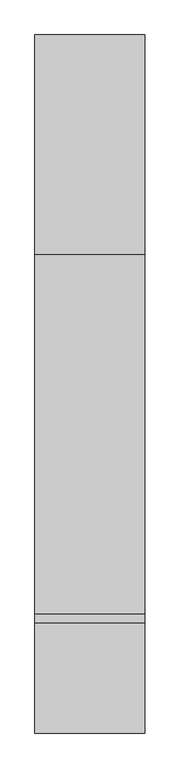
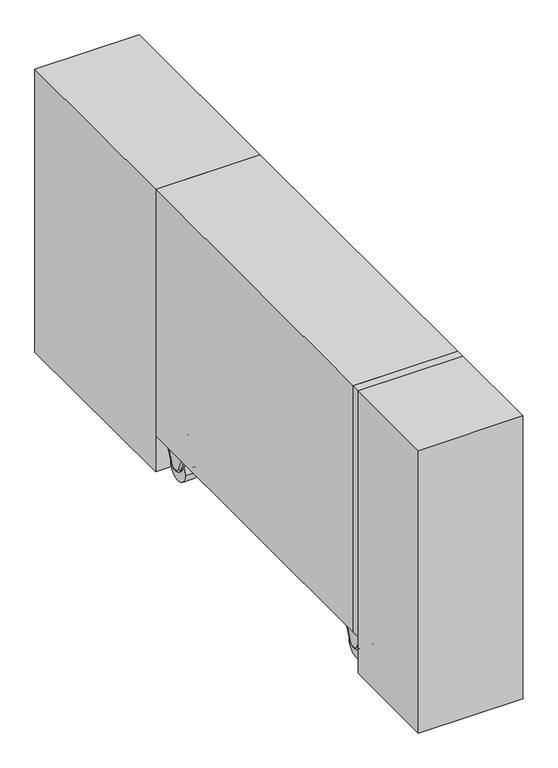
"""IFC4 building model written with IfcOpenShell, lengths in millimetres: proxy geometry, Трехфазный ИБП_ЛЕГИОН_СайберЭлектро : ЛЕГИОН-3Ф-10К-Ш."""

from ifc_helpers import new_model, si_unit, point, frame, origin, origin_with_axes, place, context, project, spatial, polyline, circle_curve, ellipse_curve, trimmed, outline, extrude, source, transform, mapped, element, save
from ifc_brep_helpers import plane_surface, cylinder_surface, revolved_surface, advanced_brep


def electrical_equipment_3741b5e4(model_context):
    return source(origin(), model_context, "Body", "SolidModel", [
        advanced_brep(
        [(107.5584286, -22.026834, 73.0926887), (107.5584286, -31.2318826, 87.0), (107.5584286, -68.7681174, 87.0), (107.5584286, -77.973166, 73.0926887), (107.5584286, -63.8075728, 39.7206426), (107.5584286, -36.1924272, 39.7206426), (62.4415714, -31.2318826, 87.0), (62.4415714, -22.026834, 73.0926887), (62.4415714, -36.1924272, 39.7206426), (62.4415714, -63.8075728, 39.7206426), (62.4415714, -77.973166, 73.0926887), (62.4415714, -68.7681174, 87.0), (102.5584286, -31.2318826, 92.0), (67.4415641, -31.2318826, 92.0), (67.4415714, -68.7681174, 92.0), (102.5584286, -68.7681174, 92.0), (67.4415714, -82.5756902, 71.1390331), (102.5584286, -82.5756902, 71.1390331), (100.0, -73.1912444, 49.0306642), (100.0, -68.4100971, 37.7669869), (102.5584286, -68.4100971, 37.7669869), (67.4415714, -68.4100971, 37.7669869), (70.0, -68.4100971, 37.7669869), (70.0, -73.1912444, 49.0306642), (100.0, -31.5899029, 37.7669869), (102.5584286, -31.5899029, 37.7669869), (70.0, -31.5899029, 37.7669869), (67.4415714, -31.5899029, 37.7669869), (100.0, -26.8087556, 49.0306642), (70.0, -26.8087556, 49.0306642), (67.4415714, -17.4243098, 71.1390331), (102.5584286, -17.4243098, 71.1390331), (100.0, -80.0, 30.0), (100.0, -20.0, 30.0), (70.0, -20.0, 30.0), (70.0, -80.0, 30.0)],
        [
            (0, 1, circle_curve(frame((107.5584286, -31.2318826, 77.0), z_axis=(1.0, 0.0, 0.0), x_axis=(0.0, 0.0, 1.0)), 10.0)),
            (1, 2),
            (2, 3, circle_curve(frame((107.5584286, -68.7681174, 77.0), z_axis=(1.0, 0.0, 0.0), x_axis=(0.0, -0.9205048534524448, -0.3907311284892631)), 10.0)),
            (3, 4),
            (4, 5, circle_curve(frame((107.5584286, -50.0, 45.5816095), z_axis=(1.0, 0.0, 0.0), x_axis=(0.0, 0.9205048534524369, -0.3907311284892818)), 15.0)),
            (5, 0),
            (6, 7, circle_curve(frame((62.4415714, -31.2318826, 77.0), z_axis=(-1.0, 0.0, 0.0), x_axis=(0.0, 0.0, 1.0)), 10.0)),
            (7, 8),
            (8, 9, circle_curve(frame((62.4415714, -50.0, 45.5816095), z_axis=(-1.0, 0.0, 0.0), x_axis=(0.0, 0.9205048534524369, -0.3907311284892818)), 15.0)),
            (9, 10),
            (10, 11, circle_curve(frame((62.4415714, -68.7681174, 77.0), z_axis=(-1.0, 0.0, 0.0), x_axis=(0.0, -0.9205048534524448, -0.3907311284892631)), 10.0)),
            (11, 6),
            (12, 13),
            (13, 14),
            (14, 15),
            (15, 12),
            (14, 16, circle_curve(frame((67.4415714, -68.7681174, 77.0), z_axis=(1.0, 0.0, 0.0), x_axis=(0.0, 1.0, 0.0)), 15.0)),
            (16, 17),
            (17, 15, circle_curve(frame((102.5584286, -68.7681174, 77.0), z_axis=(-1.0, 0.0, 0.0), x_axis=(0.0, 1.0, 0.0)), 15.0)),
            (18, 19),
            (19, 20),
            (20, 17),
            (16, 21),
            (21, 22),
            (22, 23),
            (23, 18),
            (19, 24, circle_curve(frame((100.0, -50.0, 45.5816095), z_axis=(1.0, 0.0, 0.0), x_axis=(0.0, 1.0, 0.0)), 20.0)),
            (24, 25),
            (25, 20, circle_curve(frame((102.5584286, -50.0, 45.5816095), z_axis=(-1.0, 0.0, 0.0), x_axis=(0.0, 1.0, 0.0)), 20.0)),
            (26, 22, circle_curve(frame((70.0, -50.0, 45.5816095), z_axis=(-1.0, 0.0, 0.0), x_axis=(0.0, 1.0, 0.0)), 20.0)),
            (21, 27, circle_curve(frame((67.4415714, -50.0, 45.5816095), z_axis=(1.0, 0.0, 0.0), x_axis=(0.0, 1.0, 0.0)), 20.0)),
            (27, 26),
            (24, 28),
            (28, 29),
            (29, 26),
            (27, 30),
            (30, 31),
            (31, 25),
            (12, 31, circle_curve(frame((102.5584286, -31.2318826, 77.0), z_axis=(-1.0, 0.0, 0.0), x_axis=(0.0, 1.0, 0.0)), 15.0)),
            (30, 13, circle_curve(frame((67.4415714, -31.2318826, 77.0), z_axis=(1.0, 0.0, 0.0), x_axis=(0.0, 1.0, 0.0)), 15.0)),
            (32, 33, circle_curve(frame((100.0, -50.0, 30.0), z_axis=(1.0, 0.0, 0.0), x_axis=(0.0, -1.0, 0.0)), 30.0)),
            (33, 28, circle_curve(frame((100.0, -50.0, 30.0), z_axis=(1.0, 0.0, 0.0), x_axis=(0.0, -1.0, 0.0)), 30.0)),
            (18, 32, circle_curve(frame((100.0, -50.0, 30.0), z_axis=(1.0, 0.0, 0.0), x_axis=(0.0, -1.0, 0.0)), 30.0)),
            (34, 35, circle_curve(frame((70.0, -50.0, 30.0), z_axis=(-1.0, 0.0, 0.0), x_axis=(0.0, -1.0, 0.0)), 30.0)),
            (35, 23, circle_curve(frame((70.0, -50.0, 30.0), z_axis=(-1.0, 0.0, 0.0), x_axis=(0.0, -1.0, 0.0)), 30.0)),
            (29, 34, circle_curve(frame((70.0, -50.0, 30.0), z_axis=(-1.0, 0.0, 0.0), x_axis=(0.0, -1.0, 0.0)), 30.0)),
            (33, 34),
            (35, 32),
            (30, 7, circle_curve(frame((67.4415714, -22.026834, 73.0926887), z_axis=(0.0, 0.3907311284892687, 0.9205048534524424), x_axis=(-1.0, 0.0, 0.0)), 5.0)),
            (6, 13, circle_curve(frame((67.4415714, -31.2318826, 87.0), z_axis=(0.0, 1.0, 0.0), x_axis=(-1.0, 0.0, 0.0)), 5.0)),
            (0, 31, circle_curve(frame((102.5584286, -22.026834, 73.0926887), z_axis=(0.0, 0.3907311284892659, 0.9205048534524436), x_axis=(-1.0, 0.0, 0.0)), 5.0)),
            (12, 1, circle_curve(frame((102.5584286, -31.2318826, 87.0), z_axis=(0.0, 1.0, 0.0), x_axis=(-1.0, 0.0, 0.0)), 5.0)),
            (27, 8, circle_curve(frame((67.4415714, -36.1924272, 39.7206426), z_axis=(0.0, 0.3907311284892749, 0.9205048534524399), x_axis=(-1.0, 0.0, 0.0)), 5.0)),
            (5, 25, circle_curve(frame((102.5584286, -36.1924272, 39.7206426), z_axis=(0.0, 0.3907311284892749, 0.9205048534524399), x_axis=(-1.0, 0.0, 0.0)), 5.0)),
            (21, 9, circle_curve(frame((67.4415714, -63.8075728, 39.7206426), z_axis=(0.0, 0.39073112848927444, -0.9205048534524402), x_axis=(-1.0, 0.0, 0.0)), 5.0)),
            (4, 20, circle_curve(frame((102.5584286, -63.8075728, 39.7206426), z_axis=(0.0, 0.39073112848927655, -0.9205048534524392), x_axis=(-1.0, 0.0, 0.0)), 5.0)),
            (16, 10, circle_curve(frame((67.4415714, -77.973166, 73.0926887), z_axis=(0.0, 0.39073112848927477, -0.92050485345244), x_axis=(-1.0, 0.0, 0.0)), 5.0)),
            (3, 17, circle_curve(frame((102.5584286, -77.973166, 73.0926887), z_axis=(0.0, 0.39073112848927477, -0.92050485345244), x_axis=(-1.0, 0.0, 0.0)), 5.0)),
            (14, 11, circle_curve(frame((67.4415714, -68.7681174, 87.0), z_axis=(0.0, -1.0, 0.0), x_axis=(-1.0, 0.0, 0.0)), 5.0)),
            (2, 15, circle_curve(frame((102.5584286, -68.7681174, 87.0), z_axis=(0.0, -1.0, 0.0), x_axis=(-1.0, 0.0, 0.0)), 5.0)),
        ],
        [
            plane_surface(frame((107.5584286, -50.0, 92.0), z_axis=(1.0, 0.0, 0.0), x_axis=(0.0, -1.0, 0.0))),
            plane_surface(frame((62.4415714, -50.0, 92.0), z_axis=(-1.0, 0.0, 0.0), x_axis=(0.0, 1.0, 0.0))),
            plane_surface(frame((107.5584286, -31.2318826, 92.0), z_axis=(0.0, 0.0, 1.0), x_axis=(-1.0, 0.0, 0.0))),
            cylinder_surface(frame((62.4415714, -68.7681174, 77.0), z_axis=(1.0, 0.0, 0.0), x_axis=(0.0, 1.0, 0.0)), 15.0),
            plane_surface(frame((107.5584286, -82.5756902, 71.1390331), z_axis=(0.0, -0.9205048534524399, -0.39073112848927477), x_axis=(-1.0, 0.0, 0.0))),
            cylinder_surface(frame((62.4415714, -50.0, 45.5816095), z_axis=(1.0, 0.0, 0.0), x_axis=(0.0, 1.0, 0.0)), 20.0),
            plane_surface(frame((107.5584286, -31.5899029, 37.7669869), z_axis=(0.0, 0.9205048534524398, -0.3907311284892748), x_axis=(-1.0, 0.0, 0.0))),
            cylinder_surface(frame((62.4415714, -31.2318826, 77.0), z_axis=(1.0, 0.0, 0.0), x_axis=(0.0, 1.0, 0.0)), 15.0),
            plane_surface(frame((100.0, -80.0, 30.0), z_axis=(1.0, 0.0, 0.0), x_axis=(0.0, 0.0, -1.0))),
            plane_surface(frame((70.0, -80.0, 30.0), z_axis=(-1.0, 0.0, 0.0), x_axis=(0.0, 0.0, 1.0))),
            cylinder_surface(frame((70.0, -50.0, 30.0), z_axis=(1.0, 0.0, 0.0), x_axis=(0.0, -1.0, 0.0)), 30.0),
            revolved_surface(trimmed(ellipse_curve(frame((67.4415714, -31.2318826, 87.0), z_axis=(0.0, -1.0, 0.0), x_axis=(-1.0, 0.0, 0.0)), 5.0, 5.0), [point((67.4415714, -31.2318826, 92.0))], [point((62.4415714, -31.2318826, 87.0))], True, "CARTESIAN"), (62.4415714, -31.2318826, 77.0), (-1.0, 0.0, 0.0)),
            revolved_surface(trimmed(ellipse_curve(frame((102.5584286, -31.2318826, 87.0), z_axis=(0.0, -1.0, 0.0), x_axis=(-1.0, 0.0, 0.0)), 5.0, 5.0), [point((107.5584286, -31.2318826, 87.0))], [point((102.5584286, -31.2318826, 92.0))], True, "CARTESIAN"), (62.4415714, -31.2318826, 77.0), (-1.0, 0.0, 0.0)),
            cylinder_surface(frame((67.4415714, -22.026834, 73.0926887), z_axis=(0.0, -0.3907311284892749, -0.9205048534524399), x_axis=(-1.0, 0.0, 0.0)), 5.0),
            cylinder_surface(frame((102.5584286, -22.026834, 73.0926887), z_axis=(0.0, -0.3907311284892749, -0.9205048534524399), x_axis=(-1.0, 0.0, 0.0)), 5.0),
            revolved_surface(trimmed(ellipse_curve(frame((67.4415714, -36.1924272, 39.7206426), z_axis=(0.0, 0.39073112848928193, 0.9205048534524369), x_axis=(-1.0, 0.0, 0.0)), 5.0, 5.0), [point((67.4415714, -31.5899029, 37.7669869))], [point((62.4415714, -36.1924272, 39.7206426))], True, "CARTESIAN"), (62.4415714, -50.0, 45.5816095), (-1.0, 0.0, 0.0)),
            revolved_surface(trimmed(ellipse_curve(frame((102.5584286, -36.1924272, 39.7206426), z_axis=(0.0, 0.39073112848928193, 0.9205048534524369), x_axis=(-1.0, 0.0, 0.0)), 5.0, 5.0), [point((107.5584286, -36.1924272, 39.7206426))], [point((102.5584286, -31.5899029, 37.7669869))], True, "CARTESIAN"), (62.4415714, -50.0, 45.5816095), (-1.0, 0.0, 0.0)),
            cylinder_surface(frame((67.4415714, -63.8075728, 39.7206426), z_axis=(0.0, -0.39073112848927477, 0.92050485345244), x_axis=(-1.0, 0.0, 0.0)), 5.0),
            cylinder_surface(frame((102.5584286, -63.8075728, 39.7206426), z_axis=(0.0, -0.39073112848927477, 0.92050485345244), x_axis=(-1.0, 0.0, 0.0)), 5.0),
            revolved_surface(trimmed(ellipse_curve(frame((67.4415714, -77.973166, 73.0926887), z_axis=(0.0, 0.39073112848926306, -0.9205048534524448), x_axis=(-1.0, 0.0, 0.0)), 5.0, 5.0), [point((67.4415714, -82.5756902, 71.1390331))], [point((62.4415714, -77.973166, 73.0926887))], True, "CARTESIAN"), (62.4415714, -68.7681174, 77.0), (-1.0, 0.0, 0.0)),
            revolved_surface(trimmed(ellipse_curve(frame((102.5584286, -77.973166, 73.0926887), z_axis=(0.0, 0.39073112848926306, -0.9205048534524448), x_axis=(-1.0, 0.0, 0.0)), 5.0, 5.0), [point((107.5584286, -77.973166, 73.0926887))], [point((102.5584286, -82.5756902, 71.1390331))], True, "CARTESIAN"), (62.4415714, -68.7681174, 77.0), (-1.0, 0.0, 0.0)),
            cylinder_surface(frame((67.4415714, -68.7681174, 87.0), z_axis=(0.0, 1.0, 0.0), x_axis=(-1.0, 0.0, 0.0)), 5.0),
            cylinder_surface(frame((102.5584286, -68.7681174, 87.0), z_axis=(0.0, 1.0, 0.0), x_axis=(-1.0, 0.0, 0.0)), 5.0),
        ],
        [
            (0, [[1, 2, 3, 4, 5, 6]]),
            (1, [[7, 8, 9, 10, 11, 12]]),
            (2, [[13, 14, 15, 16]]),
            (3, [[-15, 17, 18, 19]]),
            (4, [[20, 21, 22, -18, 23, 24, 25, 26]]),
            (5, [[27, 28, 29, -21]]),
            (5, [[30, -24, 31, 32]]),
            (6, [[33, 34, 35, -32, 36, 37, 38, -28]]),
            (7, [[-13, 39, -37, 40]]),
            (8, [[41, 42, -33, -27, -20, 43]]),
            (9, [[44, 45, -25, -30, -35, 46]]),
            (10, [[47, -46, -34, -42]]),
            (10, [[48, -43, -26, -45]]),
            (10, [[-41, -48, -44, -47]]),
            (11, [[49, -7, 50, -40]]),
            (12, [[51, -39, 52, -1]]),
            (13, [[-49, -36, 53, -8]]),
            (14, [[-51, -6, 54, -38]]),
            (15, [[-53, -31, 55, -9]]),
            (16, [[-54, -5, 56, -29]]),
            (17, [[-55, -23, 57, -10]]),
            (18, [[-56, -4, 58, -22]]),
            (19, [[-57, -17, 59, -11]]),
            (20, [[-58, -3, 60, -19]]),
            (21, [[-50, -12, -59, -14]]),
            (22, [[-52, -16, -60, -2]]),
        ],
    ),
        advanced_brep(
        [(-62.4415714, -22.026834, 73.0926887), (-62.4415714, -31.2318826, 87.0), (-62.4415714, -68.7681174, 87.0), (-62.4415714, -77.973166, 73.0926887), (-62.4415714, -63.8075728, 39.7206426), (-62.4415714, -36.1924272, 39.7206426), (-107.5584286, -31.2318826, 87.0), (-107.5584286, -22.026834, 73.0926887), (-107.5584286, -36.1924272, 39.7206426), (-107.5584286, -63.8075728, 39.7206426), (-107.5584286, -77.973166, 73.0926887), (-107.5584286, -68.7681174, 87.0), (-67.4415714, -31.2318826, 92.0), (-102.5584359, -31.2318826, 92.0), (-102.5584286, -68.7681174, 92.0), (-67.4415714, -68.7681174, 92.0), (-102.5584286, -82.5756902, 71.1390331), (-67.4415714, -82.5756902, 71.1390331), (-70.0, -73.1912444, 49.0306642), (-70.0, -68.4100971, 37.7669869), (-67.4415714, -68.4100971, 37.7669869), (-102.5584286, -68.4100971, 37.7669869), (-100.0, -68.4100971, 37.7669869), (-100.0, -73.1912444, 49.0306642), (-70.0, -31.5899029, 37.7669869), (-67.4415714, -31.5899029, 37.7669869), (-100.0, -31.5899029, 37.7669869), (-102.5584286, -31.5899029, 37.7669869), (-70.0, -26.8087556, 49.0306642), (-100.0, -26.8087556, 49.0306642), (-102.5584286, -17.4243098, 71.1390331), (-67.4415714, -17.4243098, 71.1390331), (-70.0, -80.0, 30.0), (-70.0, -20.0, 30.0), (-100.0, -20.0, 30.0), (-100.0, -80.0, 30.0)],
        [
            (0, 1, circle_curve(frame((-62.4415714, -31.2318826, 77.0), z_axis=(1.0, 0.0, 0.0), x_axis=(0.0, 0.0, 1.0)), 10.0)),
            (1, 2),
            (2, 3, circle_curve(frame((-62.4415714, -68.7681174, 77.0), z_axis=(1.0, 0.0, 0.0), x_axis=(0.0, -0.9205048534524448, -0.3907311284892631)), 10.0)),
            (3, 4),
            (4, 5, circle_curve(frame((-62.4415714, -50.0, 45.5816095), z_axis=(1.0, 0.0, 0.0), x_axis=(0.0, 0.9205048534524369, -0.3907311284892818)), 15.0)),
            (5, 0),
            (6, 7, circle_curve(frame((-107.5584286, -31.2318826, 77.0), z_axis=(-1.0, 0.0, 0.0), x_axis=(0.0, 0.0, 1.0)), 10.0)),
            (7, 8),
            (8, 9, circle_curve(frame((-107.5584286, -50.0, 45.5816095), z_axis=(-1.0, 0.0, 0.0), x_axis=(0.0, 0.9205048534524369, -0.3907311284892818)), 15.0)),
            (9, 10),
            (10, 11, circle_curve(frame((-107.5584286, -68.7681174, 77.0), z_axis=(-1.0, 0.0, 0.0), x_axis=(0.0, -0.9205048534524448, -0.3907311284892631)), 10.0)),
            (11, 6),
            (12, 13),
            (13, 14),
            (14, 15),
            (15, 12),
            (14, 16, circle_curve(frame((-102.5584286, -68.7681174, 77.0), z_axis=(1.0, 0.0, 0.0), x_axis=(0.0, 1.0, 0.0)), 15.0)),
            (16, 17),
            (17, 15, circle_curve(frame((-67.4415714, -68.7681174, 77.0), z_axis=(-1.0, 0.0, 0.0), x_axis=(0.0, 1.0, 0.0)), 15.0)),
            (18, 19),
            (19, 20),
            (20, 17),
            (16, 21),
            (21, 22),
            (22, 23),
            (23, 18),
            (19, 24, circle_curve(frame((-70.0, -50.0, 45.5816095), z_axis=(1.0, 0.0, 0.0), x_axis=(0.0, 1.0, 0.0)), 20.0)),
            (24, 25),
            (25, 20, circle_curve(frame((-67.4415714, -50.0, 45.5816095), z_axis=(-1.0, 0.0, 0.0), x_axis=(0.0, 1.0, 0.0)), 20.0)),
            (26, 22, circle_curve(frame((-100.0, -50.0, 45.5816095), z_axis=(-1.0, 0.0, 0.0), x_axis=(0.0, 1.0, 0.0)), 20.0)),
            (21, 27, circle_curve(frame((-102.5584286, -50.0, 45.5816095), z_axis=(1.0, 0.0, 0.0), x_axis=(0.0, 1.0, 0.0)), 20.0)),
            (27, 26),
            (24, 28),
            (28, 29),
            (29, 26),
            (27, 30),
            (30, 31),
            (31, 25),
            (12, 31, circle_curve(frame((-67.4415714, -31.2318826, 77.0), z_axis=(-1.0, 0.0, 0.0), x_axis=(0.0, 1.0, 0.0)), 15.0)),
            (30, 13, circle_curve(frame((-102.5584286, -31.2318826, 77.0), z_axis=(1.0, 0.0, 0.0), x_axis=(0.0, 1.0, 0.0)), 15.0)),
            (32, 33, circle_curve(frame((-70.0, -50.0, 30.0), z_axis=(1.0, 0.0, 0.0), x_axis=(0.0, -1.0, 0.0)), 30.0)),
            (33, 28, circle_curve(frame((-70.0, -50.0, 30.0), z_axis=(1.0, 0.0, 0.0), x_axis=(0.0, -1.0, 0.0)), 30.0)),
            (18, 32, circle_curve(frame((-70.0, -50.0, 30.0), z_axis=(1.0, 0.0, 0.0), x_axis=(0.0, -1.0, 0.0)), 30.0)),
            (34, 35, circle_curve(frame((-100.0, -50.0, 30.0), z_axis=(-1.0, 0.0, 0.0), x_axis=(0.0, -1.0, 0.0)), 30.0)),
            (35, 23, circle_curve(frame((-100.0, -50.0, 30.0), z_axis=(-1.0, 0.0, 0.0), x_axis=(0.0, -1.0, 0.0)), 30.0)),
            (29, 34, circle_curve(frame((-100.0, -50.0, 30.0), z_axis=(-1.0, 0.0, 0.0), x_axis=(0.0, -1.0, 0.0)), 30.0)),
            (33, 34),
            (35, 32),
            (30, 7, circle_curve(frame((-102.5584286, -22.026834, 73.0926887), z_axis=(0.0, 0.3907311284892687, 0.9205048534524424), x_axis=(-1.0, 0.0, 0.0)), 5.0)),
            (6, 13, circle_curve(frame((-102.5584286, -31.2318826, 87.0), z_axis=(0.0, 1.0, 0.0), x_axis=(-1.0, 0.0, 0.0)), 5.0)),
            (0, 31, circle_curve(frame((-67.4415714, -22.026834, 73.0926887), z_axis=(0.0, 0.3907311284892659, 0.9205048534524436), x_axis=(-1.0, 0.0, 0.0)), 5.0)),
            (12, 1, circle_curve(frame((-67.4415714, -31.2318826, 87.0), z_axis=(0.0, 1.0, 0.0), x_axis=(-1.0, 0.0, 0.0)), 5.0)),
            (27, 8, circle_curve(frame((-102.5584286, -36.1924272, 39.7206426), z_axis=(0.0, 0.3907311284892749, 0.9205048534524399), x_axis=(-1.0, 0.0, 0.0)), 5.0)),
            (5, 25, circle_curve(frame((-67.4415714, -36.1924272, 39.7206426), z_axis=(0.0, 0.3907311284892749, 0.9205048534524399), x_axis=(-1.0, 0.0, 0.0)), 5.0)),
            (21, 9, circle_curve(frame((-102.5584286, -63.8075728, 39.7206426), z_axis=(0.0, 0.39073112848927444, -0.9205048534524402), x_axis=(-1.0, 0.0, 0.0)), 5.0)),
            (4, 20, circle_curve(frame((-67.4415714, -63.8075728, 39.7206426), z_axis=(0.0, 0.39073112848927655, -0.9205048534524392), x_axis=(-1.0, 0.0, 0.0)), 5.0)),
            (16, 10, circle_curve(frame((-102.5584286, -77.973166, 73.0926887), z_axis=(0.0, 0.39073112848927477, -0.92050485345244), x_axis=(-1.0, 0.0, 0.0)), 5.0)),
            (3, 17, circle_curve(frame((-67.4415714, -77.973166, 73.0926887), z_axis=(0.0, 0.39073112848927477, -0.92050485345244), x_axis=(-1.0, 0.0, 0.0)), 5.0)),
            (14, 11, circle_curve(frame((-102.5584286, -68.7681174, 87.0), z_axis=(0.0, -1.0, 0.0), x_axis=(-1.0, 0.0, 0.0)), 5.0)),
            (2, 15, circle_curve(frame((-67.4415714, -68.7681174, 87.0), z_axis=(0.0, -1.0, 0.0), x_axis=(-1.0, 0.0, 0.0)), 5.0)),
        ],
        [
            plane_surface(frame((-62.4415714, -50.0, 92.0), z_axis=(1.0, 0.0, 0.0), x_axis=(0.0, -1.0, 0.0))),
            plane_surface(frame((-107.5584286, -50.0, 92.0), z_axis=(-1.0, 0.0, 0.0), x_axis=(0.0, 1.0, 0.0))),
            plane_surface(frame((-62.4415714, -31.2318826, 92.0), z_axis=(0.0, 0.0, 1.0), x_axis=(-1.0, 0.0, 0.0))),
            cylinder_surface(frame((-107.5584286, -68.7681174, 77.0), z_axis=(1.0, 0.0, 0.0), x_axis=(0.0, 1.0, 0.0)), 15.0),
            plane_surface(frame((-62.4415714, -82.5756902, 71.1390331), z_axis=(0.0, -0.9205048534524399, -0.39073112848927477), x_axis=(-1.0, 0.0, 0.0))),
            cylinder_surface(frame((-107.5584286, -50.0, 45.5816095), z_axis=(1.0, 0.0, 0.0), x_axis=(0.0, 1.0, 0.0)), 20.0),
            plane_surface(frame((-62.4415714, -31.5899029, 37.7669869), z_axis=(0.0, 0.9205048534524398, -0.3907311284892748), x_axis=(-1.0, 0.0, 0.0))),
            cylinder_surface(frame((-107.5584286, -31.2318826, 77.0), z_axis=(1.0, 0.0, 0.0), x_axis=(0.0, 1.0, 0.0)), 15.0),
            plane_surface(frame((-70.0, -80.0, 30.0), z_axis=(1.0, 0.0, 0.0), x_axis=(0.0, 0.0, -1.0))),
            plane_surface(frame((-100.0, -80.0, 30.0), z_axis=(-1.0, 0.0, 0.0), x_axis=(0.0, 0.0, 1.0))),
            cylinder_surface(frame((-100.0, -50.0, 30.0), z_axis=(1.0, 0.0, 0.0), x_axis=(0.0, -1.0, 0.0)), 30.0),
            revolved_surface(trimmed(ellipse_curve(frame((-102.5584286, -31.2318826, 87.0), z_axis=(0.0, -1.0, 0.0), x_axis=(-1.0, 0.0, 0.0)), 5.0, 5.0), [point((-102.5584286, -31.2318826, 92.0))], [point((-107.5584286, -31.2318826, 87.0))], True, "CARTESIAN"), (-107.5584286, -31.2318826, 77.0), (-1.0, 0.0, 0.0)),
            revolved_surface(trimmed(ellipse_curve(frame((-67.4415714, -31.2318826, 87.0), z_axis=(0.0, -1.0, 0.0), x_axis=(-1.0, 0.0, 0.0)), 5.0, 5.0), [point((-62.4415714, -31.2318826, 87.0))], [point((-67.4415714, -31.2318826, 92.0))], True, "CARTESIAN"), (-107.5584286, -31.2318826, 77.0), (-1.0, 0.0, 0.0)),
            cylinder_surface(frame((-102.5584286, -22.026834, 73.0926887), z_axis=(0.0, -0.3907311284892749, -0.9205048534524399), x_axis=(-1.0, 0.0, 0.0)), 5.0),
            cylinder_surface(frame((-67.4415714, -22.026834, 73.0926887), z_axis=(0.0, -0.3907311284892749, -0.9205048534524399), x_axis=(-1.0, 0.0, 0.0)), 5.0),
            revolved_surface(trimmed(ellipse_curve(frame((-102.5584286, -36.1924272, 39.7206426), z_axis=(0.0, 0.39073112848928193, 0.9205048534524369), x_axis=(-1.0, 0.0, 0.0)), 5.0, 5.0), [point((-102.5584286, -31.5899029, 37.7669869))], [point((-107.5584286, -36.1924272, 39.7206426))], True, "CARTESIAN"), (-107.5584286, -50.0, 45.5816095), (-1.0, 0.0, 0.0)),
            revolved_surface(trimmed(ellipse_curve(frame((-67.4415714, -36.1924272, 39.7206426), z_axis=(0.0, 0.39073112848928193, 0.9205048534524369), x_axis=(-1.0, 0.0, 0.0)), 5.0, 5.0), [point((-62.4415714, -36.1924272, 39.7206426))], [point((-67.4415714, -31.5899029, 37.7669869))], True, "CARTESIAN"), (-107.5584286, -50.0, 45.5816095), (-1.0, 0.0, 0.0)),
            cylinder_surface(frame((-102.5584286, -63.8075728, 39.7206426), z_axis=(0.0, -0.39073112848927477, 0.92050485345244), x_axis=(-1.0, 0.0, 0.0)), 5.0),
            cylinder_surface(frame((-67.4415714, -63.8075728, 39.7206426), z_axis=(0.0, -0.39073112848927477, 0.92050485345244), x_axis=(-1.0, 0.0, 0.0)), 5.0),
            revolved_surface(trimmed(ellipse_curve(frame((-102.5584286, -77.973166, 73.0926887), z_axis=(0.0, 0.39073112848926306, -0.9205048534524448), x_axis=(-1.0, 0.0, 0.0)), 5.0, 5.0), [point((-102.5584286, -82.5756902, 71.1390331))], [point((-107.5584286, -77.973166, 73.0926887))], True, "CARTESIAN"), (-107.5584286, -68.7681174, 77.0), (-1.0, 0.0, 0.0)),
            revolved_surface(trimmed(ellipse_curve(frame((-67.4415714, -77.973166, 73.0926887), z_axis=(0.0, 0.39073112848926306, -0.9205048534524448), x_axis=(-1.0, 0.0, 0.0)), 5.0, 5.0), [point((-62.4415714, -77.973166, 73.0926887))], [point((-67.4415714, -82.5756902, 71.1390331))], True, "CARTESIAN"), (-107.5584286, -68.7681174, 77.0), (-1.0, 0.0, 0.0)),
            cylinder_surface(frame((-102.5584286, -68.7681174, 87.0), z_axis=(0.0, 1.0, 0.0), x_axis=(-1.0, 0.0, 0.0)), 5.0),
            cylinder_surface(frame((-67.4415714, -68.7681174, 87.0), z_axis=(0.0, 1.0, 0.0), x_axis=(-1.0, 0.0, 0.0)), 5.0),
        ],
        [
            (0, [[1, 2, 3, 4, 5, 6]]),
            (1, [[7, 8, 9, 10, 11, 12]]),
            (2, [[13, 14, 15, 16]]),
            (3, [[-15, 17, 18, 19]]),
            (4, [[20, 21, 22, -18, 23, 24, 25, 26]]),
            (5, [[27, 28, 29, -21]]),
            (5, [[30, -24, 31, 32]]),
            (6, [[33, 34, 35, -32, 36, 37, 38, -28]]),
            (7, [[-13, 39, -37, 40]]),
            (8, [[41, 42, -33, -27, -20, 43]]),
            (9, [[44, 45, -25, -30, -35, 46]]),
            (10, [[47, -46, -34, -42]]),
            (10, [[48, -43, -26, -45]]),
            (10, [[-41, -48, -44, -47]]),
            (11, [[49, -7, 50, -40]]),
            (12, [[51, -39, 52, -1]]),
            (13, [[-49, -36, 53, -8]]),
            (14, [[-51, -6, 54, -38]]),
            (15, [[-53, -31, 55, -9]]),
            (16, [[-54, -5, 56, -29]]),
            (17, [[-55, -23, 57, -10]]),
            (18, [[-56, -4, 58, -22]]),
            (19, [[-57, -17, 59, -11]]),
            (20, [[-58, -3, 60, -19]]),
            (21, [[-50, -12, -59, -14]]),
            (22, [[-52, -16, -60, -2]]),
        ],
    ),
        advanced_brep(
        [(107.5584286, -762.026834, 73.0926887), (107.5584286, -771.2318826, 87.0), (107.5584286, -808.7681174, 87.0), (107.5584286, -817.973166, 73.0926887), (107.5584286, -803.8075728, 39.7206426), (107.5584286, -776.1924272, 39.7206426), (62.4415714, -771.2318826, 87.0), (62.4415714, -762.026834, 73.0926887), (62.4415714, -776.1924272, 39.7206426), (62.4415714, -803.8075728, 39.7206426), (62.4415714, -817.973166, 73.0926887), (62.4415714, -808.7681174, 87.0), (102.5584286, -771.2318826, 92.0), (67.4415641, -771.2318826, 92.0), (67.4415714, -808.7681174, 92.0), (102.5584286, -808.7681174, 92.0), (67.4415714, -822.5756902, 71.1390331), (102.5584286, -822.5756902, 71.1390331), (100.0, -813.1912444, 49.0306642), (100.0, -808.4100971, 37.7669869), (102.5584286, -808.4100971, 37.7669869), (67.4415714, -808.4100971, 37.7669869), (70.0, -808.4100971, 37.7669869), (70.0, -813.1912444, 49.0306642), (100.0, -771.5899029, 37.7669869), (102.5584286, -771.5899029, 37.7669869), (70.0, -771.5899029, 37.7669869), (67.4415714, -771.5899029, 37.7669869), (100.0, -766.8087556, 49.0306642), (70.0, -766.8087556, 49.0306642), (67.4415714, -757.4243098, 71.1390331), (102.5584286, -757.4243098, 71.1390331), (100.0, -820.0, 30.0), (100.0, -760.0, 30.0), (70.0, -760.0, 30.0), (70.0, -820.0, 30.0)],
        [
            (0, 1, circle_curve(frame((107.5584286, -771.2318826, 77.0), z_axis=(1.0, 0.0, 0.0), x_axis=(0.0, 0.0, 1.0)), 10.0)),
            (1, 2),
            (2, 3, circle_curve(frame((107.5584286, -808.7681174, 77.0), z_axis=(1.0, 0.0, 0.0), x_axis=(0.0, -0.9205048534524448, -0.3907311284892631)), 10.0)),
            (3, 4),
            (4, 5, circle_curve(frame((107.5584286, -790.0, 45.5816095), z_axis=(1.0, 0.0, 0.0), x_axis=(0.0, 0.9205048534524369, -0.3907311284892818)), 15.0)),
            (5, 0),
            (6, 7, circle_curve(frame((62.4415714, -771.2318826, 77.0), z_axis=(-1.0, 0.0, 0.0), x_axis=(0.0, 0.0, 1.0)), 10.0)),
            (7, 8),
            (8, 9, circle_curve(frame((62.4415714, -790.0, 45.5816095), z_axis=(-1.0, 0.0, 0.0), x_axis=(0.0, 0.9205048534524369, -0.3907311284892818)), 15.0)),
            (9, 10),
            (10, 11, circle_curve(frame((62.4415714, -808.7681174, 77.0), z_axis=(-1.0, 0.0, 0.0), x_axis=(0.0, -0.9205048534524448, -0.3907311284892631)), 10.0)),
            (11, 6),
            (12, 13),
            (13, 14),
            (14, 15),
            (15, 12),
            (14, 16, circle_curve(frame((67.4415714, -808.7681174, 77.0), z_axis=(1.0, 0.0, 0.0), x_axis=(0.0, 1.0, 0.0)), 15.0)),
            (16, 17),
            (17, 15, circle_curve(frame((102.5584286, -808.7681174, 77.0), z_axis=(-1.0, 0.0, 0.0), x_axis=(0.0, 1.0, 0.0)), 15.0)),
            (18, 19),
            (19, 20),
            (20, 17),
            (16, 21),
            (21, 22),
            (22, 23),
            (23, 18),
            (19, 24, circle_curve(frame((100.0, -790.0, 45.5816095), z_axis=(1.0, 0.0, 0.0), x_axis=(0.0, 1.0, 0.0)), 20.0)),
            (24, 25),
            (25, 20, circle_curve(frame((102.5584286, -790.0, 45.5816095), z_axis=(-1.0, 0.0, 0.0), x_axis=(0.0, 1.0, 0.0)), 20.0)),
            (26, 22, circle_curve(frame((70.0, -790.0, 45.5816095), z_axis=(-1.0, 0.0, 0.0), x_axis=(0.0, 1.0, 0.0)), 20.0)),
            (21, 27, circle_curve(frame((67.4415714, -790.0, 45.5816095), z_axis=(1.0, 0.0, 0.0), x_axis=(0.0, 1.0, 0.0)), 20.0)),
            (27, 26),
            (24, 28),
            (28, 29),
            (29, 26),
            (27, 30),
            (30, 31),
            (31, 25),
            (12, 31, circle_curve(frame((102.5584286, -771.2318826, 77.0), z_axis=(-1.0, 0.0, 0.0), x_axis=(0.0, 1.0, 0.0)), 15.0)),
            (30, 13, circle_curve(frame((67.4415714, -771.2318826, 77.0), z_axis=(1.0, 0.0, 0.0), x_axis=(0.0, 1.0, 0.0)), 15.0)),
            (32, 33, circle_curve(frame((100.0, -790.0, 30.0), z_axis=(1.0, 0.0, 0.0), x_axis=(0.0, -1.0, 0.0)), 30.0)),
            (33, 28, circle_curve(frame((100.0, -790.0, 30.0), z_axis=(1.0, 0.0, 0.0), x_axis=(0.0, -1.0, 0.0)), 30.0)),
            (18, 32, circle_curve(frame((100.0, -790.0, 30.0), z_axis=(1.0, 0.0, 0.0), x_axis=(0.0, -1.0, 0.0)), 30.0)),
            (34, 35, circle_curve(frame((70.0, -790.0, 30.0), z_axis=(-1.0, 0.0, 0.0), x_axis=(0.0, -1.0, 0.0)), 30.0)),
            (35, 23, circle_curve(frame((70.0, -790.0, 30.0), z_axis=(-1.0, 0.0, 0.0), x_axis=(0.0, -1.0, 0.0)), 30.0)),
            (29, 34, circle_curve(frame((70.0, -790.0, 30.0), z_axis=(-1.0, 0.0, 0.0), x_axis=(0.0, -1.0, 0.0)), 30.0)),
            (33, 34),
            (35, 32),
            (30, 7, circle_curve(frame((67.4415714, -762.026834, 73.0926887), z_axis=(0.0, 0.3907311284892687, 0.9205048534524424), x_axis=(-1.0, 0.0, 0.0)), 5.0)),
            (6, 13, circle_curve(frame((67.4415714, -771.2318826, 87.0), z_axis=(0.0, 1.0, 0.0), x_axis=(-1.0, 0.0, 0.0)), 5.0)),
            (0, 31, circle_curve(frame((102.5584286, -762.026834, 73.0926887), z_axis=(0.0, 0.3907311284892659, 0.9205048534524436), x_axis=(-1.0, 0.0, 0.0)), 5.0)),
            (12, 1, circle_curve(frame((102.5584286, -771.2318826, 87.0), z_axis=(0.0, 1.0, 0.0), x_axis=(-1.0, 0.0, 0.0)), 5.0)),
            (27, 8, circle_curve(frame((67.4415714, -776.1924272, 39.7206426), z_axis=(0.0, 0.3907311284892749, 0.9205048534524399), x_axis=(-1.0, 0.0, 0.0)), 5.0)),
            (5, 25, circle_curve(frame((102.5584286, -776.1924272, 39.7206426), z_axis=(0.0, 0.3907311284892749, 0.9205048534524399), x_axis=(-1.0, 0.0, 0.0)), 5.0)),
            (21, 9, circle_curve(frame((67.4415714, -803.8075728, 39.7206426), z_axis=(0.0, 0.39073112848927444, -0.9205048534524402), x_axis=(-1.0, 0.0, 0.0)), 5.0)),
            (4, 20, circle_curve(frame((102.5584286, -803.8075728, 39.7206426), z_axis=(0.0, 0.39073112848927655, -0.9205048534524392), x_axis=(-1.0, 0.0, 0.0)), 5.0)),
            (16, 10, circle_curve(frame((67.4415714, -817.973166, 73.0926887), z_axis=(0.0, 0.39073112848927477, -0.92050485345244), x_axis=(-1.0, 0.0, 0.0)), 5.0)),
            (3, 17, circle_curve(frame((102.5584286, -817.973166, 73.0926887), z_axis=(0.0, 0.39073112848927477, -0.92050485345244), x_axis=(-1.0, 0.0, 0.0)), 5.0)),
            (14, 11, circle_curve(frame((67.4415714, -808.7681174, 87.0), z_axis=(0.0, -1.0, 0.0), x_axis=(-1.0, 0.0, 0.0)), 5.0)),
            (2, 15, circle_curve(frame((102.5584286, -808.7681174, 87.0), z_axis=(0.0, -1.0, 0.0), x_axis=(-1.0, 0.0, 0.0)), 5.0)),
        ],
        [
            plane_surface(frame((107.5584286, -790.0, 92.0), z_axis=(1.0, 0.0, 0.0), x_axis=(0.0, -1.0, 0.0))),
            plane_surface(frame((62.4415714, -790.0, 92.0), z_axis=(-1.0, 0.0, 0.0), x_axis=(0.0, 1.0, 0.0))),
            plane_surface(frame((107.5584286, -771.2318826, 92.0), z_axis=(0.0, 0.0, 1.0), x_axis=(-1.0, 0.0, 0.0))),
            cylinder_surface(frame((62.4415714, -808.7681174, 77.0), z_axis=(1.0, 0.0, 0.0), x_axis=(0.0, 1.0, 0.0)), 15.0),
            plane_surface(frame((107.5584286, -822.5756902, 71.1390331), z_axis=(0.0, -0.9205048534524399, -0.39073112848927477), x_axis=(-1.0, 0.0, 0.0))),
            cylinder_surface(frame((62.4415714, -790.0, 45.5816095), z_axis=(1.0, 0.0, 0.0), x_axis=(0.0, 1.0, 0.0)), 20.0),
            plane_surface(frame((107.5584286, -771.5899029, 37.7669869), z_axis=(0.0, 0.9205048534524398, -0.3907311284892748), x_axis=(-1.0, 0.0, 0.0))),
            cylinder_surface(frame((62.4415714, -771.2318826, 77.0), z_axis=(1.0, 0.0, 0.0), x_axis=(0.0, 1.0, 0.0)), 15.0),
            plane_surface(frame((100.0, -820.0, 30.0), z_axis=(1.0, 0.0, 0.0), x_axis=(0.0, 0.0, -1.0))),
            plane_surface(frame((70.0, -820.0, 30.0), z_axis=(-1.0, 0.0, 0.0), x_axis=(0.0, 0.0, 1.0))),
            cylinder_surface(frame((70.0, -790.0, 30.0), z_axis=(1.0, 0.0, 0.0), x_axis=(0.0, -1.0, 0.0)), 30.0),
            revolved_surface(trimmed(ellipse_curve(frame((67.4415714, -771.2318826, 87.0), z_axis=(0.0, -1.0, 0.0), x_axis=(-1.0, 0.0, 0.0)), 5.0, 5.0), [point((67.4415714, -771.2318826, 92.0))], [point((62.4415714, -771.2318826, 87.0))], True, "CARTESIAN"), (62.4415714, -771.2318826, 77.0), (-1.0, 0.0, 0.0)),
            revolved_surface(trimmed(ellipse_curve(frame((102.5584286, -771.2318826, 87.0), z_axis=(0.0, -1.0, 0.0), x_axis=(-1.0, 0.0, 0.0)), 5.0, 5.0), [point((107.5584286, -771.2318826, 87.0))], [point((102.5584286, -771.2318826, 92.0))], True, "CARTESIAN"), (62.4415714, -771.2318826, 77.0), (-1.0, 0.0, 0.0)),
            cylinder_surface(frame((67.4415714, -762.026834, 73.0926887), z_axis=(0.0, -0.3907311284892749, -0.9205048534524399), x_axis=(-1.0, 0.0, 0.0)), 5.0),
            cylinder_surface(frame((102.5584286, -762.026834, 73.0926887), z_axis=(0.0, -0.3907311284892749, -0.9205048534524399), x_axis=(-1.0, 0.0, 0.0)), 5.0),
            revolved_surface(trimmed(ellipse_curve(frame((67.4415714, -776.1924272, 39.7206426), z_axis=(0.0, 0.39073112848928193, 0.9205048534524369), x_axis=(-1.0, 0.0, 0.0)), 5.0, 5.0), [point((67.4415714, -771.5899029, 37.7669869))], [point((62.4415714, -776.1924272, 39.7206426))], True, "CARTESIAN"), (62.4415714, -790.0, 45.5816095), (-1.0, 0.0, 0.0)),
            revolved_surface(trimmed(ellipse_curve(frame((102.5584286, -776.1924272, 39.7206426), z_axis=(0.0, 0.39073112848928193, 0.9205048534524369), x_axis=(-1.0, 0.0, 0.0)), 5.0, 5.0), [point((107.5584286, -776.1924272, 39.7206426))], [point((102.5584286, -771.5899029, 37.7669869))], True, "CARTESIAN"), (62.4415714, -790.0, 45.5816095), (-1.0, 0.0, 0.0)),
            cylinder_surface(frame((67.4415714, -803.8075728, 39.7206426), z_axis=(0.0, -0.39073112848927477, 0.92050485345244), x_axis=(-1.0, 0.0, 0.0)), 5.0),
            cylinder_surface(frame((102.5584286, -803.8075728, 39.7206426), z_axis=(0.0, -0.39073112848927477, 0.92050485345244), x_axis=(-1.0, 0.0, 0.0)), 5.0),
            revolved_surface(trimmed(ellipse_curve(frame((67.4415714, -817.973166, 73.0926887), z_axis=(0.0, 0.39073112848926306, -0.9205048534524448), x_axis=(-1.0, 0.0, 0.0)), 5.0, 5.0), [point((67.4415714, -822.5756902, 71.1390331))], [point((62.4415714, -817.973166, 73.0926887))], True, "CARTESIAN"), (62.4415714, -808.7681174, 77.0), (-1.0, 0.0, 0.0)),
            revolved_surface(trimmed(ellipse_curve(frame((102.5584286, -817.973166, 73.0926887), z_axis=(0.0, 0.39073112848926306, -0.9205048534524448), x_axis=(-1.0, 0.0, 0.0)), 5.0, 5.0), [point((107.5584286, -817.973166, 73.0926887))], [point((102.5584286, -822.5756902, 71.1390331))], True, "CARTESIAN"), (62.4415714, -808.7681174, 77.0), (-1.0, 0.0, 0.0)),
            cylinder_surface(frame((67.4415714, -808.7681174, 87.0), z_axis=(0.0, 1.0, 0.0), x_axis=(-1.0, 0.0, 0.0)), 5.0),
            cylinder_surface(frame((102.5584286, -808.7681174, 87.0), z_axis=(0.0, 1.0, 0.0), x_axis=(-1.0, 0.0, 0.0)), 5.0),
        ],
        [
            (0, [[1, 2, 3, 4, 5, 6]]),
            (1, [[7, 8, 9, 10, 11, 12]]),
            (2, [[13, 14, 15, 16]]),
            (3, [[-15, 17, 18, 19]]),
            (4, [[20, 21, 22, -18, 23, 24, 25, 26]]),
            (5, [[27, 28, 29, -21]]),
            (5, [[30, -24, 31, 32]]),
            (6, [[33, 34, 35, -32, 36, 37, 38, -28]]),
            (7, [[-13, 39, -37, 40]]),
            (8, [[41, 42, -33, -27, -20, 43]]),
            (9, [[44, 45, -25, -30, -35, 46]]),
            (10, [[47, -46, -34, -42]]),
            (10, [[48, -43, -26, -45]]),
            (10, [[-41, -48, -44, -47]]),
            (11, [[49, -7, 50, -40]]),
            (12, [[51, -39, 52, -1]]),
            (13, [[-49, -36, 53, -8]]),
            (14, [[-51, -6, 54, -38]]),
            (15, [[-53, -31, 55, -9]]),
            (16, [[-54, -5, 56, -29]]),
            (17, [[-55, -23, 57, -10]]),
            (18, [[-56, -4, 58, -22]]),
            (19, [[-57, -17, 59, -11]]),
            (20, [[-58, -3, 60, -19]]),
            (21, [[-50, -12, -59, -14]]),
            (22, [[-52, -16, -60, -2]]),
        ],
    ),
        advanced_brep(
        [(-62.4415714, -762.026834, 73.0926887), (-62.4415714, -771.2318826, 87.0), (-62.4415714, -808.7681174, 87.0), (-62.4415714, -817.973166, 73.0926887), (-62.4415714, -803.8075728, 39.7206426), (-62.4415714, -776.1924272, 39.7206426), (-107.5584286, -771.2318826, 87.0), (-107.5584286, -762.026834, 73.0926887), (-107.5584286, -776.1924272, 39.7206426), (-107.5584286, -803.8075728, 39.7206426), (-107.5584286, -817.973166, 73.0926887), (-107.5584286, -808.7681174, 87.0), (-67.4415714, -771.2318826, 92.0), (-102.5584359, -771.2318826, 92.0), (-102.5584286, -808.7681174, 92.0), (-67.4415714, -808.7681174, 92.0), (-102.5584286, -822.5756902, 71.1390331), (-67.4415714, -822.5756902, 71.1390331), (-70.0, -813.1912444, 49.0306642), (-70.0, -808.4100971, 37.7669869), (-67.4415714, -808.4100971, 37.7669869), (-102.5584286, -808.4100971, 37.7669869), (-100.0, -808.4100971, 37.7669869), (-100.0, -813.1912444, 49.0306642), (-70.0, -771.5899029, 37.7669869), (-67.4415714, -771.5899029, 37.7669869), (-100.0, -771.5899029, 37.7669869), (-102.5584286, -771.5899029, 37.7669869), (-70.0, -766.8087556, 49.0306642), (-100.0, -766.8087556, 49.0306642), (-102.5584286, -757.4243098, 71.1390331), (-67.4415714, -757.4243098, 71.1390331), (-70.0, -820.0, 30.0), (-70.0, -760.0, 30.0), (-100.0, -760.0, 30.0), (-100.0, -820.0, 30.0)],
        [
            (0, 1, circle_curve(frame((-62.4415714, -771.2318826, 77.0), z_axis=(1.0, 0.0, 0.0), x_axis=(0.0, 0.0, 1.0)), 10.0)),
            (1, 2),
            (2, 3, circle_curve(frame((-62.4415714, -808.7681174, 77.0), z_axis=(1.0, 0.0, 0.0), x_axis=(0.0, -0.9205048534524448, -0.3907311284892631)), 10.0)),
            (3, 4),
            (4, 5, circle_curve(frame((-62.4415714, -790.0, 45.5816095), z_axis=(1.0, 0.0, 0.0), x_axis=(0.0, 0.9205048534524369, -0.3907311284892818)), 15.0)),
            (5, 0),
            (6, 7, circle_curve(frame((-107.5584286, -771.2318826, 77.0), z_axis=(-1.0, 0.0, 0.0), x_axis=(0.0, 0.0, 1.0)), 10.0)),
            (7, 8),
            (8, 9, circle_curve(frame((-107.5584286, -790.0, 45.5816095), z_axis=(-1.0, 0.0, 0.0), x_axis=(0.0, 0.9205048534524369, -0.3907311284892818)), 15.0)),
            (9, 10),
            (10, 11, circle_curve(frame((-107.5584286, -808.7681174, 77.0), z_axis=(-1.0, 0.0, 0.0), x_axis=(0.0, -0.9205048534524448, -0.3907311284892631)), 10.0)),
            (11, 6),
            (12, 13),
            (13, 14),
            (14, 15),
            (15, 12),
            (14, 16, circle_curve(frame((-102.5584286, -808.7681174, 77.0), z_axis=(1.0, 0.0, 0.0), x_axis=(0.0, 1.0, 0.0)), 15.0)),
            (16, 17),
            (17, 15, circle_curve(frame((-67.4415714, -808.7681174, 77.0), z_axis=(-1.0, 0.0, 0.0), x_axis=(0.0, 1.0, 0.0)), 15.0)),
            (18, 19),
            (19, 20),
            (20, 17),
            (16, 21),
            (21, 22),
            (22, 23),
            (23, 18),
            (19, 24, circle_curve(frame((-70.0, -790.0, 45.5816095), z_axis=(1.0, 0.0, 0.0), x_axis=(0.0, 1.0, 0.0)), 20.0)),
            (24, 25),
            (25, 20, circle_curve(frame((-67.4415714, -790.0, 45.5816095), z_axis=(-1.0, 0.0, 0.0), x_axis=(0.0, 1.0, 0.0)), 20.0)),
            (26, 22, circle_curve(frame((-100.0, -790.0, 45.5816095), z_axis=(-1.0, 0.0, 0.0), x_axis=(0.0, 1.0, 0.0)), 20.0)),
            (21, 27, circle_curve(frame((-102.5584286, -790.0, 45.5816095), z_axis=(1.0, 0.0, 0.0), x_axis=(0.0, 1.0, 0.0)), 20.0)),
            (27, 26),
            (24, 28),
            (28, 29),
            (29, 26),
            (27, 30),
            (30, 31),
            (31, 25),
            (12, 31, circle_curve(frame((-67.4415714, -771.2318826, 77.0), z_axis=(-1.0, 0.0, 0.0), x_axis=(0.0, 1.0, 0.0)), 15.0)),
            (30, 13, circle_curve(frame((-102.5584286, -771.2318826, 77.0), z_axis=(1.0, 0.0, 0.0), x_axis=(0.0, 1.0, 0.0)), 15.0)),
            (32, 33, circle_curve(frame((-70.0, -790.0, 30.0), z_axis=(1.0, 0.0, 0.0), x_axis=(0.0, -1.0, 0.0)), 30.0)),
            (33, 28, circle_curve(frame((-70.0, -790.0, 30.0), z_axis=(1.0, 0.0, 0.0), x_axis=(0.0, -1.0, 0.0)), 30.0)),
            (18, 32, circle_curve(frame((-70.0, -790.0, 30.0), z_axis=(1.0, 0.0, 0.0), x_axis=(0.0, -1.0, 0.0)), 30.0)),
            (34, 35, circle_curve(frame((-100.0, -790.0, 30.0), z_axis=(-1.0, 0.0, 0.0), x_axis=(0.0, -1.0, 0.0)), 30.0)),
            (35, 23, circle_curve(frame((-100.0, -790.0, 30.0), z_axis=(-1.0, 0.0, 0.0), x_axis=(0.0, -1.0, 0.0)), 30.0)),
            (29, 34, circle_curve(frame((-100.0, -790.0, 30.0), z_axis=(-1.0, 0.0, 0.0), x_axis=(0.0, -1.0, 0.0)), 30.0)),
            (33, 34),
            (35, 32),
            (30, 7, circle_curve(frame((-102.5584286, -762.026834, 73.0926887), z_axis=(0.0, 0.3907311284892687, 0.9205048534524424), x_axis=(-1.0, 0.0, 0.0)), 5.0)),
            (6, 13, circle_curve(frame((-102.5584286, -771.2318826, 87.0), z_axis=(0.0, 1.0, 0.0), x_axis=(-1.0, 0.0, 0.0)), 5.0)),
            (0, 31, circle_curve(frame((-67.4415714, -762.026834, 73.0926887), z_axis=(0.0, 0.3907311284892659, 0.9205048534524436), x_axis=(-1.0, 0.0, 0.0)), 5.0)),
            (12, 1, circle_curve(frame((-67.4415714, -771.2318826, 87.0), z_axis=(0.0, 1.0, 0.0), x_axis=(-1.0, 0.0, 0.0)), 5.0)),
            (27, 8, circle_curve(frame((-102.5584286, -776.1924272, 39.7206426), z_axis=(0.0, 0.3907311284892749, 0.9205048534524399), x_axis=(-1.0, 0.0, 0.0)), 5.0)),
            (5, 25, circle_curve(frame((-67.4415714, -776.1924272, 39.7206426), z_axis=(0.0, 0.3907311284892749, 0.9205048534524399), x_axis=(-1.0, 0.0, 0.0)), 5.0)),
            (21, 9, circle_curve(frame((-102.5584286, -803.8075728, 39.7206426), z_axis=(0.0, 0.39073112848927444, -0.9205048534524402), x_axis=(-1.0, 0.0, 0.0)), 5.0)),
            (4, 20, circle_curve(frame((-67.4415714, -803.8075728, 39.7206426), z_axis=(0.0, 0.39073112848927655, -0.9205048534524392), x_axis=(-1.0, 0.0, 0.0)), 5.0)),
            (16, 10, circle_curve(frame((-102.5584286, -817.973166, 73.0926887), z_axis=(0.0, 0.39073112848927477, -0.92050485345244), x_axis=(-1.0, 0.0, 0.0)), 5.0)),
            (3, 17, circle_curve(frame((-67.4415714, -817.973166, 73.0926887), z_axis=(0.0, 0.39073112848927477, -0.92050485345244), x_axis=(-1.0, 0.0, 0.0)), 5.0)),
            (14, 11, circle_curve(frame((-102.5584286, -808.7681174, 87.0), z_axis=(0.0, -1.0, 0.0), x_axis=(-1.0, 0.0, 0.0)), 5.0)),
            (2, 15, circle_curve(frame((-67.4415714, -808.7681174, 87.0), z_axis=(0.0, -1.0, 0.0), x_axis=(-1.0, 0.0, 0.0)), 5.0)),
        ],
        [
            plane_surface(frame((-62.4415714, -790.0, 92.0), z_axis=(1.0, 0.0, 0.0), x_axis=(0.0, -1.0, 0.0))),
            plane_surface(frame((-107.5584286, -790.0, 92.0), z_axis=(-1.0, 0.0, 0.0), x_axis=(0.0, 1.0, 0.0))),
            plane_surface(frame((-62.4415714, -771.2318826, 92.0), z_axis=(0.0, 0.0, 1.0), x_axis=(-1.0, 0.0, 0.0))),
            cylinder_surface(frame((-107.5584286, -808.7681174, 77.0), z_axis=(1.0, 0.0, 0.0), x_axis=(0.0, 1.0, 0.0)), 15.0),
            plane_surface(frame((-62.4415714, -822.5756902, 71.1390331), z_axis=(0.0, -0.9205048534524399, -0.39073112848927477), x_axis=(-1.0, 0.0, 0.0))),
            cylinder_surface(frame((-107.5584286, -790.0, 45.5816095), z_axis=(1.0, 0.0, 0.0), x_axis=(0.0, 1.0, 0.0)), 20.0),
            plane_surface(frame((-62.4415714, -771.5899029, 37.7669869), z_axis=(0.0, 0.9205048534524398, -0.3907311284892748), x_axis=(-1.0, 0.0, 0.0))),
            cylinder_surface(frame((-107.5584286, -771.2318826, 77.0), z_axis=(1.0, 0.0, 0.0), x_axis=(0.0, 1.0, 0.0)), 15.0),
            plane_surface(frame((-70.0, -820.0, 30.0), z_axis=(1.0, 0.0, 0.0), x_axis=(0.0, 0.0, -1.0))),
            plane_surface(frame((-100.0, -820.0, 30.0), z_axis=(-1.0, 0.0, 0.0), x_axis=(0.0, 0.0, 1.0))),
            cylinder_surface(frame((-100.0, -790.0, 30.0), z_axis=(1.0, 0.0, 0.0), x_axis=(0.0, -1.0, 0.0)), 30.0),
            revolved_surface(trimmed(ellipse_curve(frame((-102.5584286, -771.2318826, 87.0), z_axis=(0.0, -1.0, 0.0), x_axis=(-1.0, 0.0, 0.0)), 5.0, 5.0), [point((-102.5584286, -771.2318826, 92.0))], [point((-107.5584286, -771.2318826, 87.0))], True, "CARTESIAN"), (-107.5584286, -771.2318826, 77.0), (-1.0, 0.0, 0.0)),
            revolved_surface(trimmed(ellipse_curve(frame((-67.4415714, -771.2318826, 87.0), z_axis=(0.0, -1.0, 0.0), x_axis=(-1.0, 0.0, 0.0)), 5.0, 5.0), [point((-62.4415714, -771.2318826, 87.0))], [point((-67.4415714, -771.2318826, 92.0))], True, "CARTESIAN"), (-107.5584286, -771.2318826, 77.0), (-1.0, 0.0, 0.0)),
            cylinder_surface(frame((-102.5584286, -762.026834, 73.0926887), z_axis=(0.0, -0.3907311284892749, -0.9205048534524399), x_axis=(-1.0, 0.0, 0.0)), 5.0),
            cylinder_surface(frame((-67.4415714, -762.026834, 73.0926887), z_axis=(0.0, -0.3907311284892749, -0.9205048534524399), x_axis=(-1.0, 0.0, 0.0)), 5.0),
            revolved_surface(trimmed(ellipse_curve(frame((-102.5584286, -776.1924272, 39.7206426), z_axis=(0.0, 0.39073112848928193, 0.9205048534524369), x_axis=(-1.0, 0.0, 0.0)), 5.0, 5.0), [point((-102.5584286, -771.5899029, 37.7669869))], [point((-107.5584286, -776.1924272, 39.7206426))], True, "CARTESIAN"), (-107.5584286, -790.0, 45.5816095), (-1.0, 0.0, 0.0)),
            revolved_surface(trimmed(ellipse_curve(frame((-67.4415714, -776.1924272, 39.7206426), z_axis=(0.0, 0.39073112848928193, 0.9205048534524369), x_axis=(-1.0, 0.0, 0.0)), 5.0, 5.0), [point((-62.4415714, -776.1924272, 39.7206426))], [point((-67.4415714, -771.5899029, 37.7669869))], True, "CARTESIAN"), (-107.5584286, -790.0, 45.5816095), (-1.0, 0.0, 0.0)),
            cylinder_surface(frame((-102.5584286, -803.8075728, 39.7206426), z_axis=(0.0, -0.39073112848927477, 0.92050485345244), x_axis=(-1.0, 0.0, 0.0)), 5.0),
            cylinder_surface(frame((-67.4415714, -803.8075728, 39.7206426), z_axis=(0.0, -0.39073112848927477, 0.92050485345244), x_axis=(-1.0, 0.0, 0.0)), 5.0),
            revolved_surface(trimmed(ellipse_curve(frame((-102.5584286, -817.973166, 73.0926887), z_axis=(0.0, 0.39073112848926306, -0.9205048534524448), x_axis=(-1.0, 0.0, 0.0)), 5.0, 5.0), [point((-102.5584286, -822.5756902, 71.1390331))], [point((-107.5584286, -817.973166, 73.0926887))], True, "CARTESIAN"), (-107.5584286, -808.7681174, 77.0), (-1.0, 0.0, 0.0)),
            revolved_surface(trimmed(ellipse_curve(frame((-67.4415714, -817.973166, 73.0926887), z_axis=(0.0, 0.39073112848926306, -0.9205048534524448), x_axis=(-1.0, 0.0, 0.0)), 5.0, 5.0), [point((-62.4415714, -817.973166, 73.0926887))], [point((-67.4415714, -822.5756902, 71.1390331))], True, "CARTESIAN"), (-107.5584286, -808.7681174, 77.0), (-1.0, 0.0, 0.0)),
            cylinder_surface(frame((-102.5584286, -808.7681174, 87.0), z_axis=(0.0, 1.0, 0.0), x_axis=(-1.0, 0.0, 0.0)), 5.0),
            cylinder_surface(frame((-67.4415714, -808.7681174, 87.0), z_axis=(0.0, 1.0, 0.0), x_axis=(-1.0, 0.0, 0.0)), 5.0),
        ],
        [
            (0, [[1, 2, 3, 4, 5, 6]]),
            (1, [[7, 8, 9, 10, 11, 12]]),
            (2, [[13, 14, 15, 16]]),
            (3, [[-15, 17, 18, 19]]),
            (4, [[20, 21, 22, -18, 23, 24, 25, 26]]),
            (5, [[27, 28, 29, -21]]),
            (5, [[30, -24, 31, 32]]),
            (6, [[33, 34, 35, -32, 36, 37, 38, -28]]),
            (7, [[-13, 39, -37, 40]]),
            (8, [[41, 42, -33, -27, -20, 43]]),
            (9, [[44, 45, -25, -30, -35, 46]]),
            (10, [[47, -46, -34, -42]]),
            (10, [[48, -43, -26, -45]]),
            (10, [[-41, -48, -44, -47]]),
            (11, [[49, -7, 50, -40]]),
            (12, [[51, -39, 52, -1]]),
            (13, [[-49, -36, 53, -8]]),
            (14, [[-51, -6, 54, -38]]),
            (15, [[-53, -31, 55, -9]]),
            (16, [[-54, -5, 56, -29]]),
            (17, [[-55, -23, 57, -10]]),
            (18, [[-56, -4, 58, -22]]),
            (19, [[-57, -17, 59, -11]]),
            (20, [[-58, -3, 60, -19]]),
            (21, [[-50, -12, -59, -14]]),
            (22, [[-52, -16, -60, -2]]),
        ],
    ),
        extrude(outline(polyline([(-125.0, 0.0), (-125.0, 500.0), (125.0, 500.0), (125.0, 0.0), (-125.0, 0.0)])), origin_with_axes(), (0.0, 0.0, 1.0), 715.0),
        extrude(outline(polyline([(-125.0, -840.0), (125.0, -840.0), (125.0, -1090.0), (-125.0, -1090.0), (-125.0, -840.0)])), origin_with_axes(), (0.0, 0.0, 1.0), 715.0),
        extrude(outline(polyline([(125.0, -820.0), (125.0, -840.0), (-125.0, -840.0), (-125.0, -820.0), (125.0, -820.0)])), frame((0.0, 0.0, 92.0), z_axis=(0.0, 0.0, 1.0), x_axis=(1.0, 0.0, 0.0)), (0.0, 0.0, 1.0), 623.0),
        extrude(outline(polyline([(125.0, 0.0), (125.0, -820.0), (-125.0, -820.0), (-125.0, 0.0), (125.0, 0.0)])), frame((0.0, 0.0, 92.0), z_axis=(0.0, 0.0, 1.0), x_axis=(1.0, 0.0, 0.0)), (0.0, 0.0, 1.0), 623.0),
        extrude(outline(polyline([(-115.5, 77.0), (115.5, 77.0), (115.5, 0.0), (-115.5, 0.0), (-115.5, 77.0)])), frame((0.0, 0.0, 142.0), z_axis=(0.0, 0.0, 1.0), x_axis=(1.0, 0.0, 0.0)), (0.0, 0.0, 1.0), 105.0),
    ])


if __name__ == "__main__":
    model = new_model("IFC4")
    model_context = context("Model", 3, world=origin())
    ifc_project = project(units=[si_unit("LENGTHUNIT", "METRE", prefix="MILLI")], contexts=[model_context])
    site = spatial("IfcSite", under=ifc_project)
    building = spatial("IfcBuilding", under=site)
    placement = place(None, origin())
    electrical_equipment_shape = electrical_equipment_3741b5e4(model_context)
    element("IfcBuildingElementProxy", 1, Name="Трехфазный ИБП_ЛЕГИОН_СайберЭлектро : ЛЕГИОН-3Ф-10К-Ш", ObjectType="Трехфазный ИБП_ЛЕГИОН_СайберЭлектро : ЛЕГИОН-3Ф-10К-Ш", at=placement, inside=building, context=model_context, shape_type="MappedRepresentation", body=[
        mapped(electrical_equipment_shape, transform((0.0, 0.0, 0.0), x_axis=(1.0, 0.0, 0.0), y_axis=(0.0, 1.0, 0.0), z_axis=(0.0, 0.0, 1.0))),
    ])
    save(model, "model.ifc")
